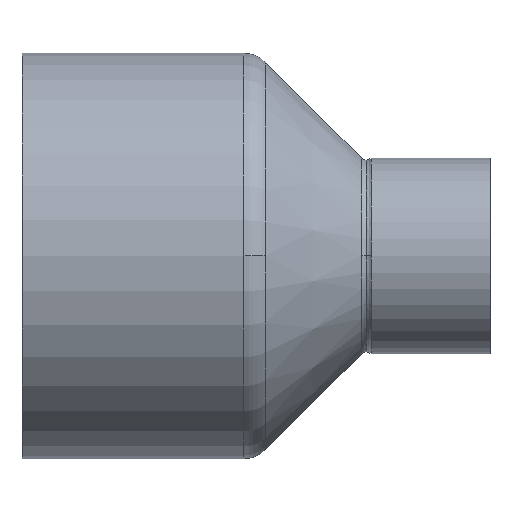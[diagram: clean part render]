
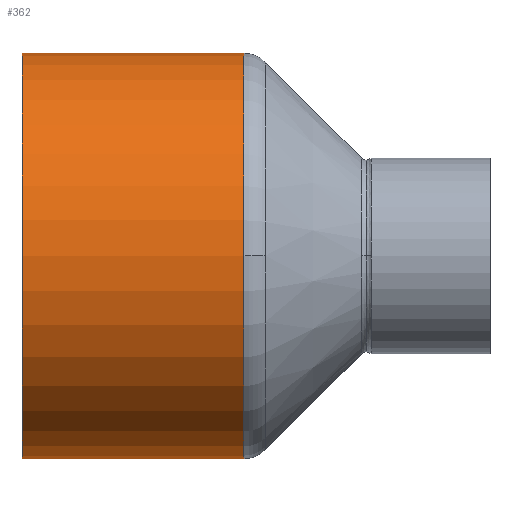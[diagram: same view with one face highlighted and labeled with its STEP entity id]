
A CAD part, top view. The second image highlights one B-rep face of the part: STEP entity #362.
In plain terms, the highlighted cylindrical face has radius 33.35 mm (diameter 66.7 mm), a partial arc.
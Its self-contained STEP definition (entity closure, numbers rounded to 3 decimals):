
#312=CARTESIAN_POINT('',(18.252,0.0,0.0));
#313=DIRECTION('',(1.0,0.0,0.0));
#314=DIRECTION('',(0.0,1.0,0.0));
#315=AXIS2_PLACEMENT_3D('',#312,#313,#314);
#316=CYLINDRICAL_SURFACE('',#315,33.35);
#317=CARTESIAN_POINT('',(0.,33.35,0.0));
#318=VERTEX_POINT('',#317);
#319=CARTESIAN_POINT('',(36.504,33.35,0.0));
#320=VERTEX_POINT('',#319);
#321=CARTESIAN_POINT('',(0.,33.35,0.0));
#322=DIRECTION('',(1.0,0.0,0.0));
#323=VECTOR('',#322,36.504);
#324=LINE('',#321,#323);
#325=EDGE_CURVE('',#318,#320,#324,.T.);
#326=ORIENTED_EDGE('',*,*,#325,.F.);
#327=CARTESIAN_POINT('',(0.,-33.35,0.));
#328=VERTEX_POINT('',#327);
#329=CARTESIAN_POINT('',(0.,0.0,0.0));
#330=DIRECTION('',(1.0,0.0,0.0));
#331=DIRECTION('',(0.0,1.0,0.0));
#332=AXIS2_PLACEMENT_3D('',#329,#330,#331);
#333=CIRCLE('',#332,33.35);
#334=EDGE_CURVE('',#318,#328,#333,.T.);
#335=ORIENTED_EDGE('',*,*,#334,.T.);
#336=CARTESIAN_POINT('',(36.504,-33.35,0.));
#337=VERTEX_POINT('',#336);
#338=CARTESIAN_POINT('',(36.504,-33.35,0.));
#339=DIRECTION('',(-1.0,0.0,0.0));
#340=VECTOR('',#339,36.504);
#341=LINE('',#338,#340);
#342=EDGE_CURVE('',#337,#328,#341,.T.);
#343=ORIENTED_EDGE('',*,*,#342,.F.);
#344=CARTESIAN_POINT('',(36.504,0.,33.35));
#345=VERTEX_POINT('',#344);
#346=CARTESIAN_POINT('',(36.504,0.0,0.0));
#347=DIRECTION('',(1.0,0.0,0.0));
#348=DIRECTION('',(0.0,1.0,0.0));
#349=AXIS2_PLACEMENT_3D('',#346,#347,#348);
#350=CIRCLE('',#349,33.35);
#351=EDGE_CURVE('',#345,#337,#350,.T.);
#352=ORIENTED_EDGE('',*,*,#351,.F.);
#353=CARTESIAN_POINT('',(36.504,0.0,0.0));
#354=DIRECTION('',(1.0,0.0,0.0));
#355=DIRECTION('',(0.0,1.0,0.0));
#356=AXIS2_PLACEMENT_3D('',#353,#354,#355);
#357=CIRCLE('',#356,33.35);
#358=EDGE_CURVE('',#320,#345,#357,.T.);
#359=ORIENTED_EDGE('',*,*,#358,.F.);
#360=EDGE_LOOP('',(#326,#335,#343,#352,#359));
#361=FACE_OUTER_BOUND('',#360,.T.);
#362=ADVANCED_FACE('',(#361),#316,.T.);
